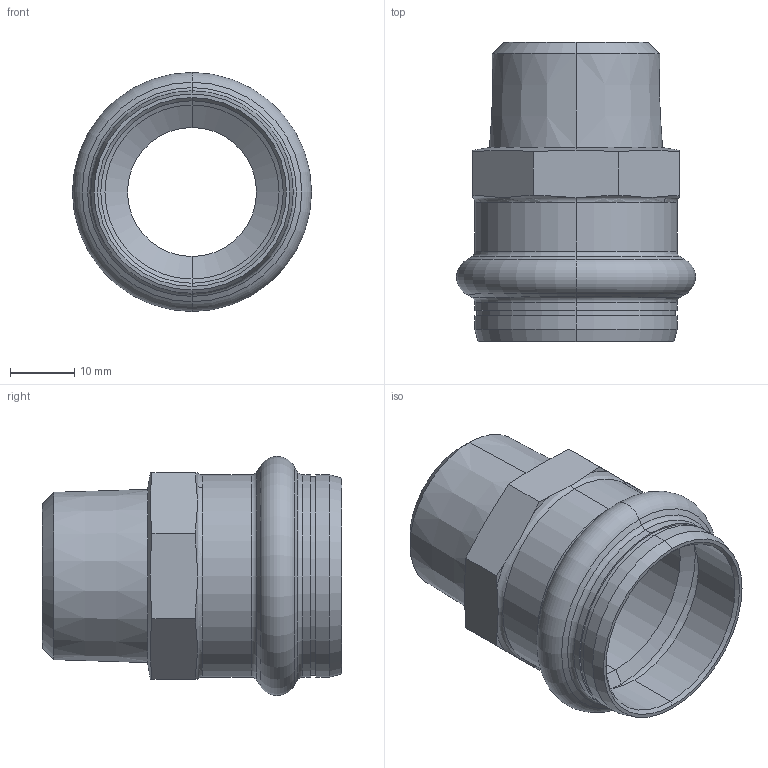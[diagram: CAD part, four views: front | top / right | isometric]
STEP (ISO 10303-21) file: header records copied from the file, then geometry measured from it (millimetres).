
FILE_DESCRIPTION (( 'STEP AP203' ), '1' );
FILE_NAME ('SP4243G Ø28 3-4.STEP', '2017-04-26T07:48:49', ( '' ), ( '' ), 'SwSTEP 2.0', 'SolidWorks 2016', '' );
FILE_SCHEMA (( 'CONFIG_CONTROL_DESIGN' ));
Length unit declared in the file: millimetre
Products named in the file (1): SP4243G Ø28 3-4
Bounding box: 37.1 x 46.4 x 37.1 mm (x, y, z)
Volume: 9990.8 mm3; surface area: 9462.1 mm2
Topology: 1 solids, 1 shells, 67 faces, 152 edges, 90 vertices
Faces by surface type: cone 28, cylinder 16, plane 13, torus 10
Entity records: 2043 total; most frequent: CARTESIAN_POINT 478, DIRECTION 324, ORIENTED_EDGE 304, EDGE_CURVE 152, AXIS2_PLACEMENT_3D 140, VERTEX_POINT 90, CIRCLE 72, EDGE_LOOP 72
